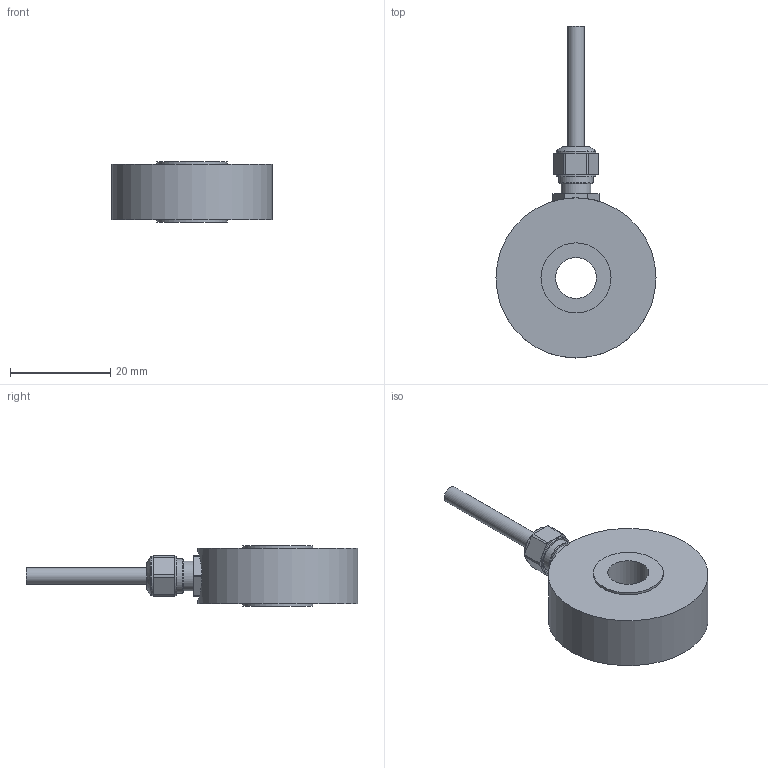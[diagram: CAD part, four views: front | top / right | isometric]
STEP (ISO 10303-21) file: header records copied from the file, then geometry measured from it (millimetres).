
FILE_DESCRIPTION(/* description */ (''),/* implementation_level */ '2;1');
FILE_NAME(/* name */ 'I:/New Datasheets/STEP Models/Pending models/CCG-25kN-003-000.step',/* time_stamp */ '2019-08-16T13:49:54+01:00',/* author */ (''),/* organization */ (''),/* preprocessor_version */ 'ST-DEVELOPER v18',/* originating_system */ 'Autodesk Translation Framework v8.6.0.1094',/* authorisation */ '');
FILE_SCHEMA (('AUTOMOTIVE_DESIGN { 1 0 10303 214 3 1 1 }'));
Length unit declared in the file: millimetre
Products named in the file (2): CCG-25kN-003-000 -; CCG-25kN-003-000
Assembly tree (1 placements, depth 2):
  CCG-25kN-003-000 -
    CCG-25kN-003-000
Bounding box: 32 x 66.38 x 12 mm (x, y, z)
Volume: 8944.6 mm3; surface area: 4156.1 mm2
Topology: 1 solids, 4 shells, 87 faces, 217 edges, 153 vertices
Faces by surface type: plane 35, cylinder 32, cone 12, torus 8
Full cylindrical faces by diameter (mm): 3.4 x2, 3.6 x1, 3.7 x1, 4.7 x1, 4.773 x1, 4.8 x2, 5.035 x1, 5.93 x1, 6.2 x1, 6.38 x1, 6.84 x1, 7.9 x2, 8.2 x1, 10 x1, 14 x2, 32 x1
Entity records: 2778 total; most frequent: CARTESIAN_POINT 518, DIRECTION 516, ORIENTED_EDGE 432, AXIS2_PLACEMENT_3D 224, EDGE_CURVE 216, VERTEX_POINT 153, CIRCLE 134, EDGE_LOOP 109
